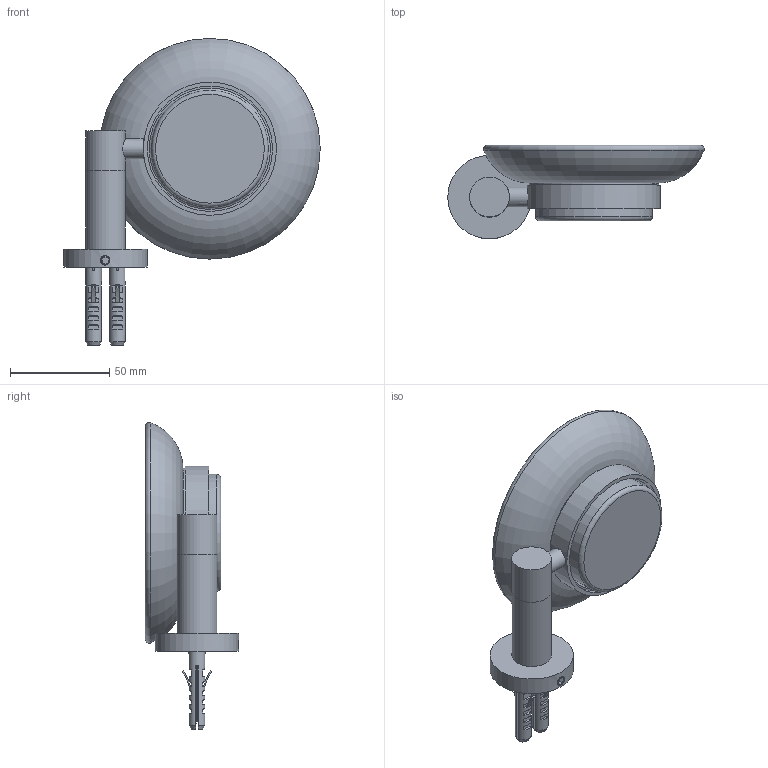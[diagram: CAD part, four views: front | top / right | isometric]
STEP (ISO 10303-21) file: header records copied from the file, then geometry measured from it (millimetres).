
FILE_DESCRIPTION(/* description */ (''),/* implementation_level */ '2;1');
FILE_NAME(/* name */ 'c:\worker\convert-fusion-mar-2019\tmp\job-1\1\output\files\9c0dd164-9fab-4588-8f9c-a96ac2368a5a\39821d01-8204-4d93-861e-af0b247ef378.stp',/* time_stamp */ '2019-03-22T07:49:43+00:00',/* author */ (''),/* organization */ (''),/* preprocessor_version */ 'ST-DEVELOPER v17.2',/* originating_system */ 'Autodesk Translation Framework v7.6.0.251',/* authorisation */ '');
FILE_SCHEMA (('AUTOMOTIVE_DESIGN { 1 0 10303 214 3 1 1 }'));
Length unit declared in the file: millimetre
Products named in the file (1): !MP60420
Bounding box: 129 x 47.01 x 154.5 mm (x, y, z)
Volume: 134308.6 mm3; surface area: 60785.1 mm2
Topology: 14 solids, 14 shells, 553 faces, 1484 edges, 980 vertices
Faces by surface type: cylinder 201, plane 196, bspline 107, cone 38, torus 11
Full cylindrical faces by diameter (mm): 3.8 x62, 4.2 x7, 5 x79, 5.126 x2, 5.2 x1, 6 x1, 7 x1, 7.5 x2, 8 x2, 10 x1, 10.2 x1, 16 x1, 18.2 x1, 18.8 x1, 20 x2, 20.2 x1, 42 x1, 58.727 x1, 61 x1, 63 x2, 65 x1, 67 x1
Entity records: 61737 total; most frequent: CARTESIAN_POINT 48988, ORIENTED_EDGE 2962, DIRECTION 2100, EDGE_CURVE 1481, VERTEX_POINT 981, AXIS2_PLACEMENT_3D 731, LINE 638, VECTOR 638
